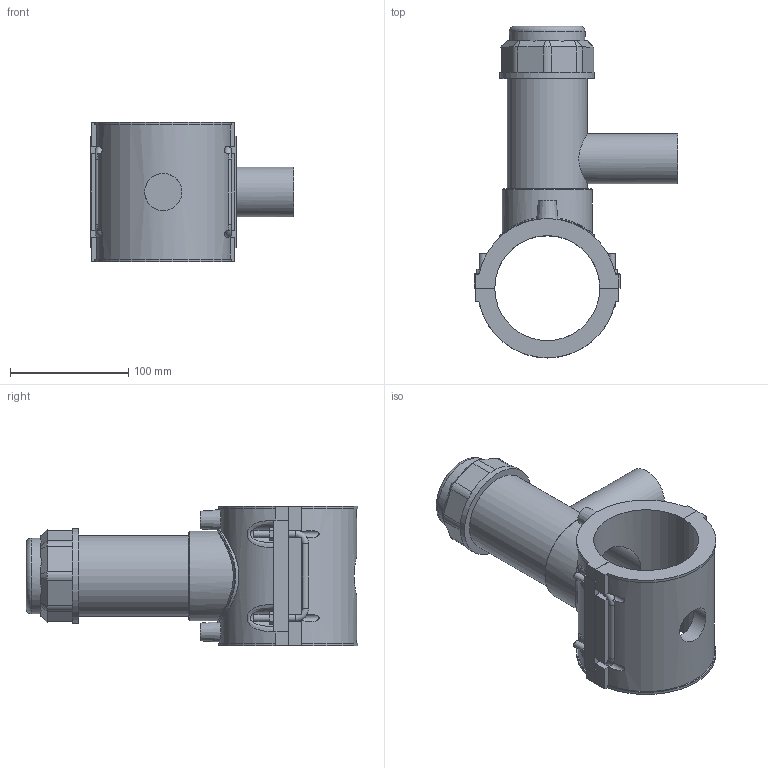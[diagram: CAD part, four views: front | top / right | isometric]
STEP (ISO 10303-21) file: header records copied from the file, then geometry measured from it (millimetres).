
FILE_DESCRIPTION(/* description */ ('PLASSON TAPPING SADDLE 3''''IPS x 1 1/4''''IPS'),/* implementation_level */ '2;1');
FILE_NAME(/* name */ 'C:\Dropbox\KIMPROJECTS-Inventor 2019\99-16-3568-Processing Inch\ASTM ElectroFusion 2021\5963B\5963BB03030013.ipt.stp',/* time_stamp */ '2021-08-30T09:55:11+03:00',/* author */ ('KIM'),/* organization */ (''),/* preprocessor_version */ 'ST-DEVELOPER v17.2',/* originating_system */ 'Autodesk Inventor 2019',/* authorisation */ '');
FILE_SCHEMA (('AUTOMOTIVE_DESIGN { 1 0 10303 214 3 1 1 }'));
Length unit declared in the file: millimetre
Products named in the file (1): 5963BB03030013
Bounding box: 171.43 x 280.2 x 118.11 mm (x, y, z)
Volume: 871808.8 mm3; surface area: 182700.8 mm2
Topology: 1 solids, 1 shells, 211 faces, 568 edges, 375 vertices
Faces by surface type: plane 128, cylinder 57, cone 15, bspline 6, torus 5
Full cylindrical faces by diameter (mm): 4 x2, 6 x7, 10 x2, 31.36 x1, 33.68 x1, 42.1 x1, 55.881 x1, 63.864 x1, 67.856 x1, 75.838 x1, 79.83 x1
Entity records: 8509 total; most frequent: CARTESIAN_POINT 3122, ORIENTED_EDGE 1158, DIRECTION 1055, EDGE_CURVE 579, VERTEX_POINT 375, AXIS2_PLACEMENT_3D 357, LINE 341, VECTOR 341
